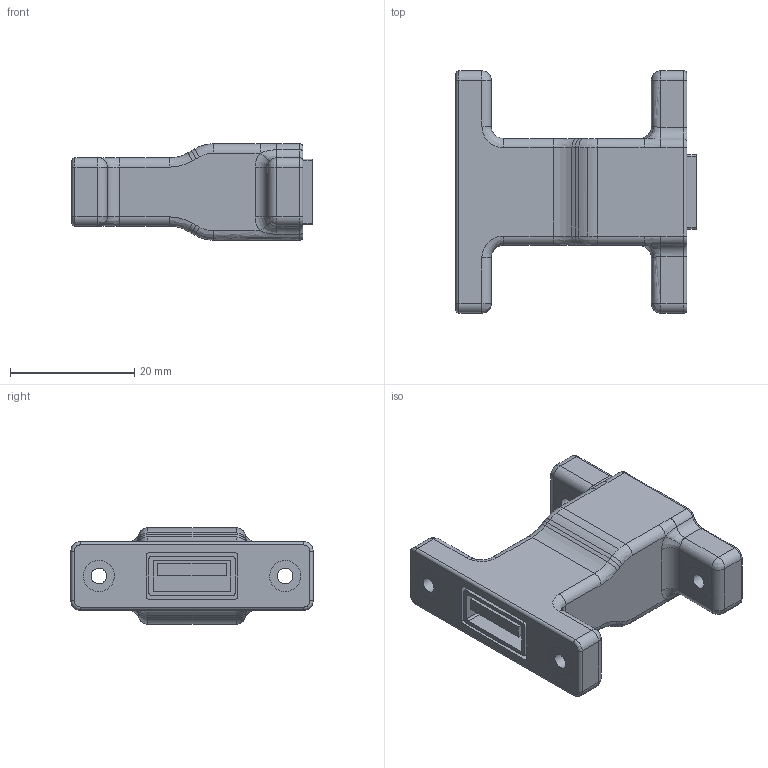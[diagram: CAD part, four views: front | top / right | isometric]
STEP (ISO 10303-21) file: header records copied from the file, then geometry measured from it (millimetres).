
FILE_DESCRIPTION( ('This file contains a STEP AP42 implementation' ,'as created by ZW3D STEP Interface translator.') ,'2;1' );
FILE_NAME( 'TB-003_FCAA-FABF-C01Q-S01_SD.stp' ,'26 320. 94943', (''), ('ZWCAD Software Co.'), 'Version 1.0', 'ZW3D to STEP translator', '' );
FILE_SCHEMA(('AUTOMOTIVE_DESIGN'));
Length unit declared in the file: millimetre
Products named in the file (2): 0; TB-003_FCAA-FABF-C01Q-S01_SD
Bounding box: 38.7 x 39 x 15.5 mm (x, y, z)
Volume: 10326.8 mm3; surface area: 5174.7 mm2
Topology: 1 solids, 1 shells, 207 faces, 480 edges, 288 vertices
Faces by surface type: bspline 207
Entity records: 12812 total; most frequent: CARTESIAN_POINT 9621, ORIENTED_EDGE 956, B_SPLINE_CURVE_WITH_KNOTS 478, EDGE_CURVE 478, VERTEX_POINT 288, EDGE_LOOP 230, FACE_OUTER_BOUND 207, ADVANCED_FACE 207
